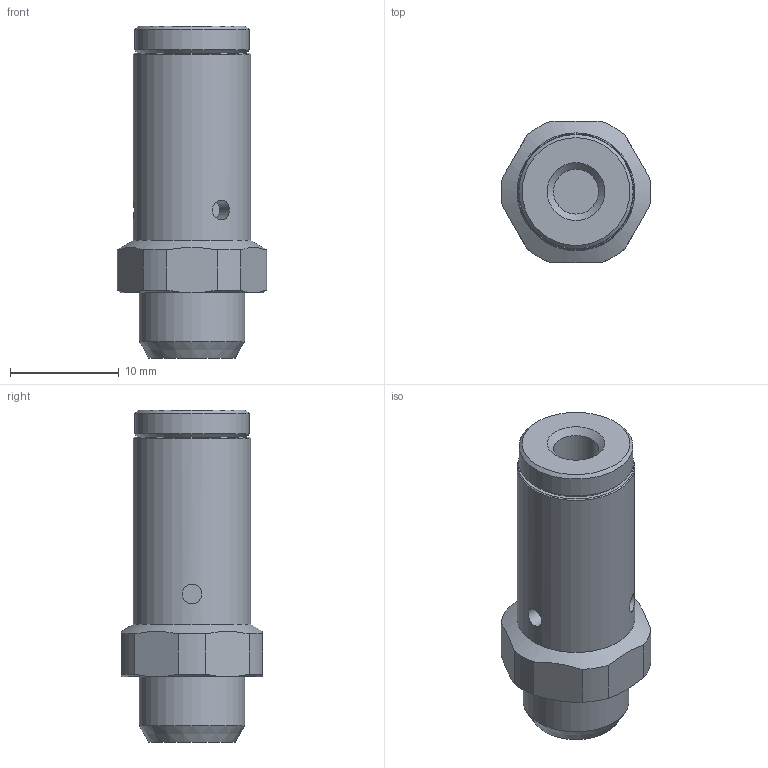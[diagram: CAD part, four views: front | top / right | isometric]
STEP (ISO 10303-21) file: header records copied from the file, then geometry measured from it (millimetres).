
FILE_DESCRIPTION(/* description */ ('VALVOLA S.RAPIDO IN M5 OUT G1/8"'),/* implementation_level */ '2;1');
FILE_NAME(/* name */ 'I:\Area Tecnica\Disegni\VARIE-3D\Componenti\600\6_02_##_##_L\6_02_M5_18_L.stp',/* time_stamp */ '2017-01-20T13:59:23+01:00',/* author */ ('maniean1'),/* organization */ ('Pneumax S.p.A.'),/* preprocessor_version */ 'ST-DEVELOPER v15.2',/* originating_system */ 'Autodesk Inventor 2014',/* authorisation */ '');
FILE_SCHEMA (('AUTOMOTIVE_DESIGN { 1 0 10303 214 3 1 1 }'));
Length unit declared in the file: millimetre
Products named in the file (1): 6_02_M5_18_L
Bounding box: 13.77 x 13 x 30.5 mm (x, y, z)
Volume: 2779.9 mm3; surface area: 1399.1 mm2
Topology: 1 solids, 1 shells, 39 faces, 81 edges, 50 vertices
Faces by surface type: plane 14, cylinder 13, cone 12
Full cylindrical faces by diameter (mm): 1.8 x3, 4.134 x1, 9.728 x1, 10.5 x1, 10.8 x1
Entity records: 1058 total; most frequent: CARTESIAN_POINT 291, DIRECTION 160, ORIENTED_EDGE 134, AXIS2_PLACEMENT_3D 74, EDGE_CURVE 67, EDGE_LOOP 58, VERTEX_POINT 49, ADVANCED_FACE 39
